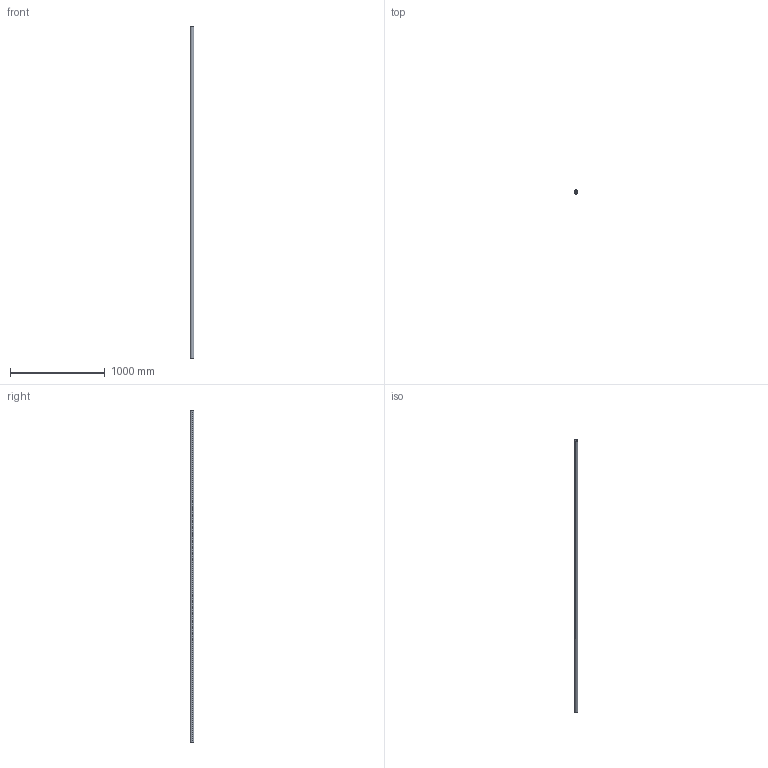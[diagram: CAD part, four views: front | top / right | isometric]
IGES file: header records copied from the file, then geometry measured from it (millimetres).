
Start section: SolidWorks IGES file using analytic representation for surfaces
Global section: file name: C:\Users\IanO\Desktop\L1771_v2\L1771.40_v2\L1771.40_v2_20230705_IGES\L1771.40-3500.igs; native system: SolidWorks 2019; preprocessor: SolidWorks 2019; author: IanO; date: 230705.161924; units: millimetre
Bounding box: 40 x 40 x 3500 mm (x, y, z)
Surface area: 748980.8 mm2 (no closed solid volume)
Topology: 0 solids, 0 shells, 6 faces, 272 edges, 272 vertices
Faces by surface type: revolution 4, bspline 2
